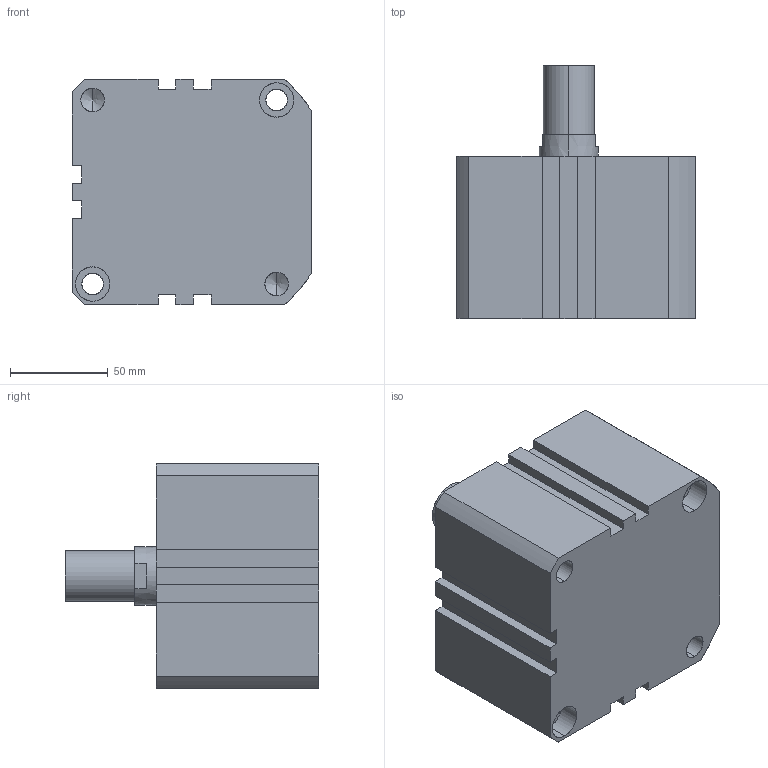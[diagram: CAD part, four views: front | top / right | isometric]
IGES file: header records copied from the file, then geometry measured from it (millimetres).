
Start section: SolidWorks IGES file using analytic representation for surfaces
Global section: file name: C:\Users\Toshiba\Desktop\XG#M2-100D-10.IGS; native system: SolidWorks 2014; preprocessor: SolidWorks 2014; author: Toshiba; date: 160524.102053; units: millimetre
Bounding box: 122.5 x 129.5 x 115 mm (x, y, z)
Surface area: 87238 mm2 (no closed solid volume)
Topology: 0 solids, 0 shells, 110 faces, 1887 edges, 1875 vertices
Faces by surface type: revolution 63, bspline 47
